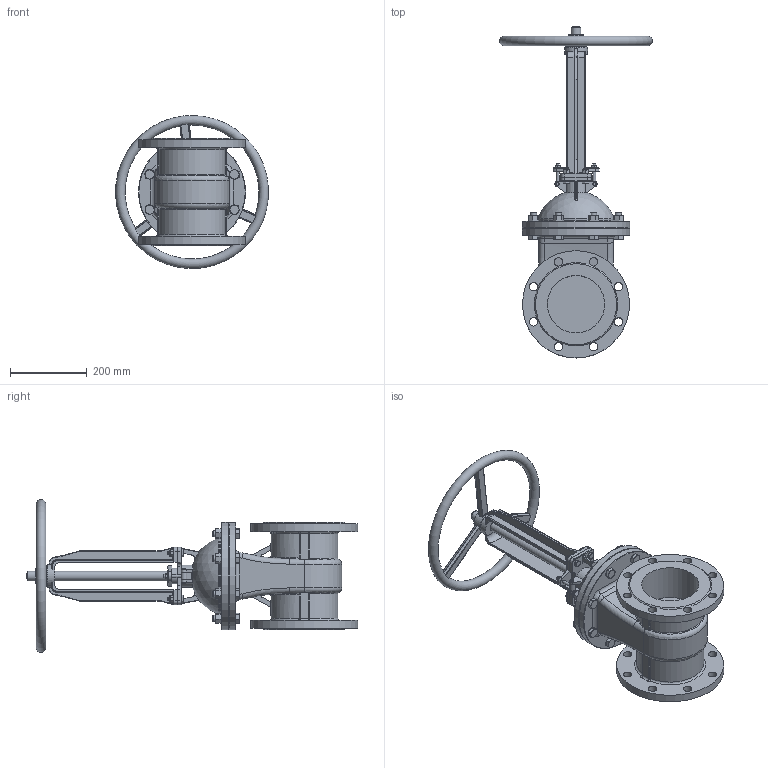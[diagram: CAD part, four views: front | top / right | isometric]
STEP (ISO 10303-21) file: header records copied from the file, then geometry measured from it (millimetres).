
FILE_DESCRIPTION(('STEP AP242'), '1');
FILE_NAME('GVWR2626M-2W-F-S Çàäâèæêà êëèíîâàÿ ñ âûäâèæíûì øòîêîì DN.ru Äó150 Ðó16', '', ('UNSPECIFIED'), ('UNSPECIFIED'), 'C3D Converter', 'C3D Toolkit', '');
FILE_SCHEMA(('AP242_MANAGED_MODEL_BASED_3D_ENGINEERING_MIM_LF { 1 0 10303 442 1 1 4 }'));
Length unit declared in the file: millimetre
Products named in the file (1): GVWR2626M-2W-F-S
Bounding box: 399.36 x 867.5 x 399.76 mm (x, y, z)
Volume: 13214563.1 mm3; surface area: 1078027.7 mm2
Topology: 1 solids, 1 shells, 1170 faces, 2845 edges, 1712 vertices
Faces by surface type: plane 462, cone 261, cylinder 249, bspline 107, torus 86, sphere 5
Full cylindrical faces by diameter (mm): 7 x4, 8 x4, 10 x8, 15 x2, 16 x20, 22 x16, 24 x4, 25 x2, 30 x1, 40 x3, 50 x1, 60 x1, 150 x2, 200 x2, 280 x4
Entity records: 67377 total; most frequent: CARTESIAN_POINT 32384, ORIENTED_EDGE 5438, DIRECTION 4900, EDGE_CURVE 2719, AXIS2_PLACEMENT_3D 2011, VERTEX_POINT 1703, EDGE_LOOP 1410, FACE_BOUND 1283
